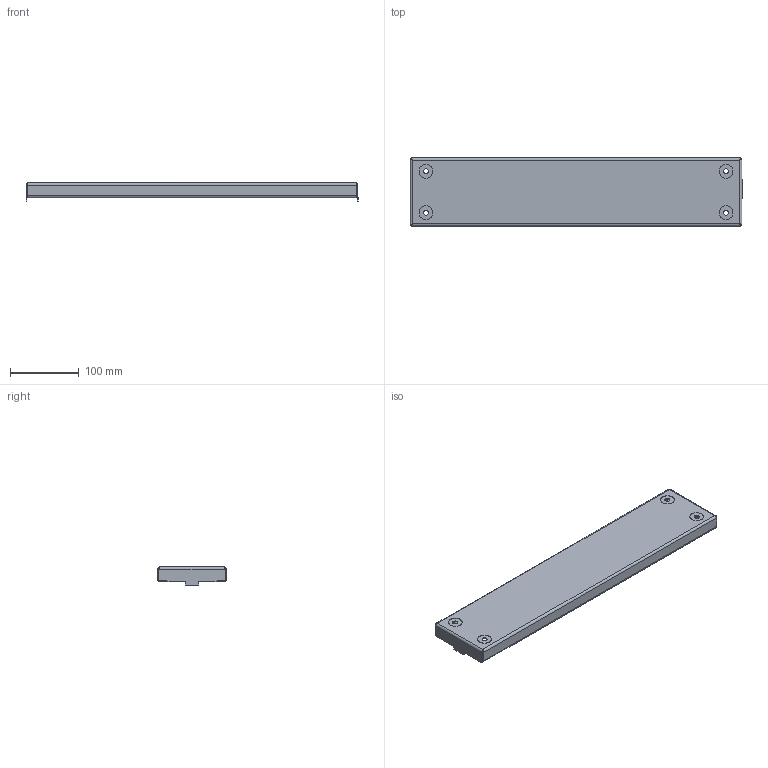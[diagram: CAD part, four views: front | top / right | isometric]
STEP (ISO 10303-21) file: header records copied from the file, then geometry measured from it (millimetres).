
FILE_DESCRIPTION (( 'STEP AP203' ), '1' );
FILE_NAME ('ESB.9.745530.984_esb4259_1_Ïàíåëü öîêîëÿ Âðó pro 100x600 (ìîä1).STEP', '2023-04-03T05:53:47', ( '' ), ( '' ), 'SwSTEP 2.0', 'SolidWorks 2020', '' );
FILE_SCHEMA (( 'CONFIG_CONTROL_DESIGN' ));
Length unit declared in the file: millimetre
Products named in the file (1): ESB.9.745530.984_esb4259_1_Ïàíåëü öîêîëÿ Âðó pro 100x600 (ìîä1)
Bounding box: 481.3 x 99 x 26.5 mm (x, y, z)
Volume: 108889.2 mm3; surface area: 158868.6 mm2
Topology: 1 solids, 1 shells, 154 faces, 396 edges, 248 vertices
Faces by surface type: cylinder 100, plane 46, bspline 8
Entity records: 5449 total; most frequent: CARTESIAN_POINT 1367, DIRECTION 858, ORIENTED_EDGE 792, EDGE_CURVE 396, AXIS2_PLACEMENT_3D 331, VERTEX_POINT 248, EDGE_LOOP 238, VECTOR 196
